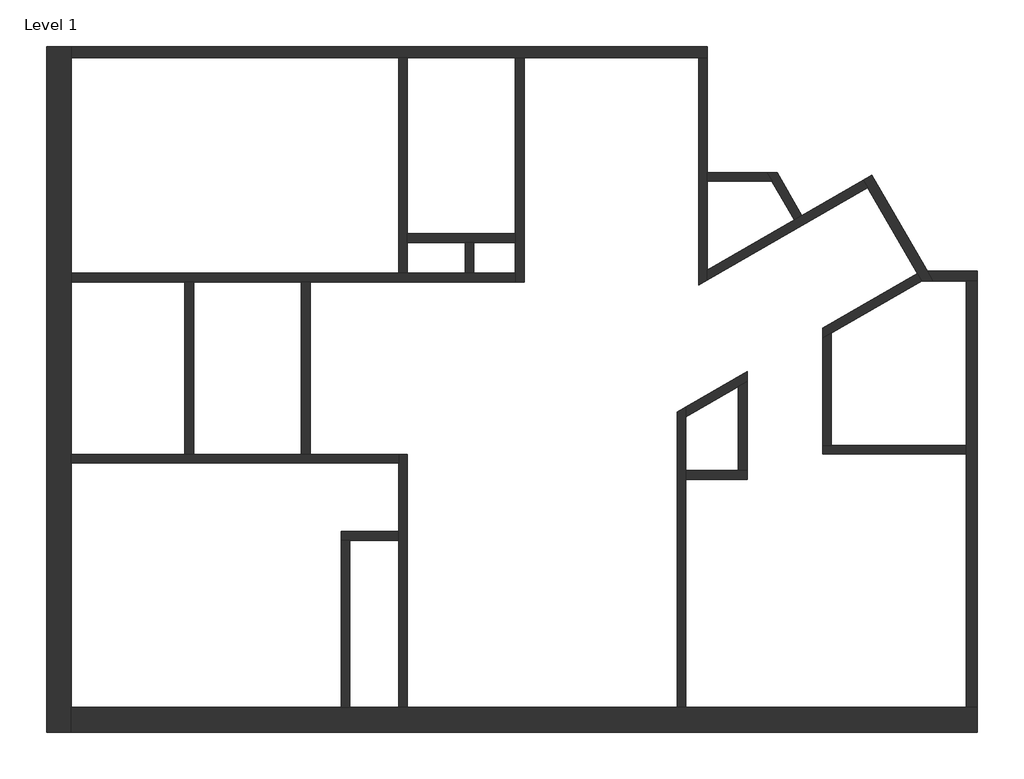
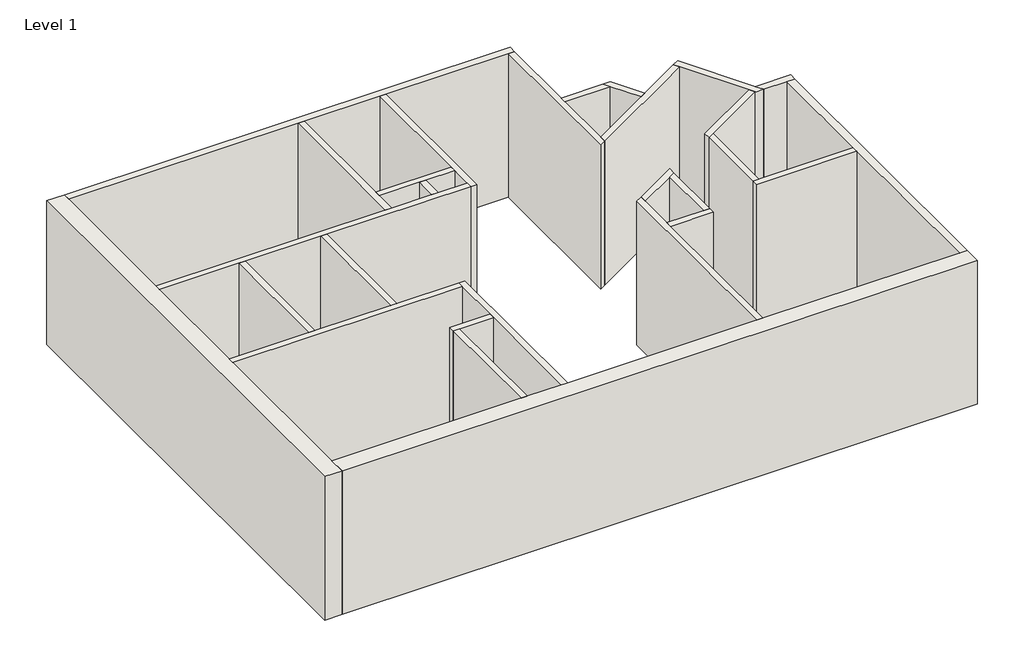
# One storey: 28 walls.
"""IFC4 building model written with IfcOpenShell, lengths in millimetres."""

import ifcopenshell
import ifcopenshell.guid

model = None  # the IFC model being written
_history = None  # IfcOwnerHistory: only IFC2X3 demands one
_inside = {}  # id of a spatial element -> (the spatial element, [elements in it])
_under = {}  # id of a project, library or spatial element -> (it, [spatial elements below it])
_declared = {}  # id of a project -> (the project, [libraries it declares])
_typed = {}  # id of a type object -> (the type object, [elements of that type])
_made_of = {}  # id of a material, layer set ... -> (it, [elements and type objects made of it])


def new_model(schema):
    """Start an empty IFC model of exactly this schema.

    Asked for "IFC4X3", IfcOpenShell would pick the latest addendum, in which some entities
    have other attributes; the version numbers below select the first issue.
    IFC2X3 requires an IfcOwnerHistory on every rooted entity: one is made here for all.
    """
    global model, _history
    if schema == "IFC4X3":
        model = ifcopenshell.file(schema_version=(4, 3, 0, 0))
    else:
        model = ifcopenshell.file(schema=schema)
    _inside.clear()
    _under.clear()
    _declared.clear()
    _typed.clear()
    _made_of.clear()
    _history = None
    if model.schema == "IFC2X3":
        org = make("IfcOrganization", Name="unknown")
        user = make(
            "IfcPersonAndOrganization",
            ThePerson=make("IfcPerson", FamilyName="unknown"),
            TheOrganization=org,
        )
        app = make(
            "IfcApplication",
            ApplicationDeveloper=org,
            Version="unknown",
            ApplicationFullName="unknown",
            ApplicationIdentifier="unknown",
        )
        _history = make(
            "IfcOwnerHistory",
            OwningUser=user,
            OwningApplication=app,
            ChangeAction="ADDED",
            CreationDate=0,
        )
    return model


def make(cls, **values):
    """One entity of the class cls with the attributes given. An attribute that is None is left unset."""
    return model.create_entity(
        cls, **{name: value for name, value in values.items() if value is not None}
    )


def rooted(cls, **values):
    """An entity with a GlobalId (a new one), such as an element, a storey or a relation."""
    return make(cls, GlobalId=ifcopenshell.guid.new(), OwnerHistory=_history, **values)


def si_unit(unit_type, name, prefix=None):
    """IfcSIUnit, for example si_unit("LENGTHUNIT", "METRE", prefix="MILLI")."""
    return make("IfcSIUnit", UnitType=unit_type, Prefix=prefix, Name=name)


def assignment(units):
    """IfcUnitAssignment: the units of a project."""
    return None if units is None else make("IfcUnitAssignment", Units=units)


def point(xyz):
    """IfcCartesianPoint."""
    return None if xyz is None else make("IfcCartesianPoint", Coordinates=xyz)


def direction(xyz):
    """IfcDirection."""
    return None if xyz is None else make("IfcDirection", DirectionRatios=xyz)


def frame(location, z_axis=None, x_axis=None):
    """IfcAxis2Placement3D, a coordinate frame: its origin and axes. An axis left out is left unset."""
    return make(
        "IfcAxis2Placement3D",
        Location=point(location),
        Axis=direction(z_axis),
        RefDirection=direction(x_axis),
    )


def origin():
    """The frame at (0, 0, 0) with its axes left unset."""
    return frame((0.0, 0.0, 0.0))


def origin_with_axes():
    """The frame at (0, 0, 0) with the z axis (0, 0, 1) and the x axis (1, 0, 0) written out."""
    return frame((0.0, 0.0, 0.0), z_axis=(0.0, 0.0, 1.0), x_axis=(1.0, 0.0, 0.0))


def place(relative_to, where):
    """IfcLocalPlacement: puts the frame where relative to a parent placement (None: the world)."""
    return make(
        "IfcLocalPlacement", PlacementRelTo=relative_to, RelativePlacement=where
    )


def context(
    kind, dimensions, precision=None, world=None, true_north=None, identifier=None
):
    """IfcGeometricRepresentationContext, for example the 3D "Model" context."""
    return make(
        "IfcGeometricRepresentationContext",
        ContextIdentifier=identifier,
        ContextType=kind,
        CoordinateSpaceDimension=dimensions,
        Precision=precision,
        WorldCoordinateSystem=world,
        TrueNorth=true_north,
    )


def project(units=None, contexts=None):
    """IfcProject with its units and contexts."""
    return rooted(
        "IfcProject",
        Name="project",
        RepresentationContexts=contexts,
        UnitsInContext=assignment(units),
    )


def spatial(cls, under=None, at=None, **own):
    """A site, building, storey or space (cls), placed at a placement, below another one or the project."""
    s = rooted(cls, ObjectPlacement=at, **own)
    if under is not None:
        _under.setdefault(under.id(), (under, []))[1].append(s)
    return s


def polyline(points):
    """IfcPolyline through the points."""
    return make("IfcPolyline", Points=[point(p) for p in points])


def outline(outer, holes=None, kind="AREA"):
    """IfcArbitraryClosedProfileDef: a profile drawn as a closed curve; with holes, ...WithVoids."""
    if holes is None:
        return make("IfcArbitraryClosedProfileDef", ProfileType=kind, OuterCurve=outer)
    return make(
        "IfcArbitraryProfileDefWithVoids",
        ProfileType=kind,
        OuterCurve=outer,
        InnerCurves=holes,
    )


def extrude(swept, where, along, depth):
    """IfcExtrudedAreaSolid: the profile swept, set in the frame where, extruded along a direction by depth."""
    return make(
        "IfcExtrudedAreaSolid",
        SweptArea=swept,
        Position=where,
        ExtrudedDirection=direction(along),
        Depth=depth,
    )


def faces_of(points, faces, orient=None, outer=None):
    """IfcFace entities. A face is a list of loops; a loop is a list of indices into points, from 0.

    orient and outer hold one flag for each loop. By default every Orientation is true, the
    first loop of a face is its IfcFaceOuterBound and the others are IfcFaceBound.
    """
    made = []
    for i, loops in enumerate(faces):
        bounds = []
        for j, loop in enumerate(loops):
            is_outer = j == 0 if outer is None else outer[i][j]
            bounds.append(
                make(
                    "IfcFaceOuterBound" if is_outer else "IfcFaceBound",
                    Bound=make("IfcPolyLoop", Polygon=[points[k] for k in loop]),
                    Orientation=True if orient is None else orient[i][j],
                )
            )
        made.append(make("IfcFace", Bounds=bounds))
    return made


def faceted_brep(points, faces, orient=None, outer=None, voids=None):
    """IfcFacetedBrep: a solid bounded by flat faces; with voids (closed shells), ...WithVoids."""
    shared = [point(p) for p in points]
    hull = make("IfcClosedShell", CfsFaces=faces_of(shared, faces, orient, outer))
    if voids is None:
        return make("IfcFacetedBrep", Outer=hull)
    return make(
        "IfcFacetedBrepWithVoids",
        Outer=hull,
        Voids=[
            make(cls, CfsFaces=faces_of(shared, fs, o, b)) for cls, fs, o, b in voids
        ],
    )


def shape(context_of_items, identifier, shape_type, items):
    """IfcShapeRepresentation: the items that make up one representation, for example the "Body"."""
    return make(
        "IfcShapeRepresentation",
        ContextOfItems=context_of_items,
        RepresentationIdentifier=identifier,
        RepresentationType=shape_type,
        Items=items,
    )


def made_of(thing, what):
    """Note that an element or type object is made of a material, layer set ...; save() writes the relation."""
    if what is not None:
        _made_of.setdefault(what.id(), (what, []))[1].append(thing)
    return thing


def element(
    cls,
    number,
    at=None,
    inside=None,
    cuts=None,
    type_object=None,
    material=None,
    context=None,
    identifier="Body",
    shape_type=None,
    held_by="IfcProductDefinitionShape",
    body=None,
    shapes=None,
    **own,
):
    """One element of the class cls, such as IfcWall. Its Tag is "e" and its number.

    at: its placement. inside: the storey or other place that contains it. cuts: it is an
    opening in that element (IfcRelVoidsElement). A single representation is given by context,
    identifier, shape_type and body (its items); several are given by shapes. held_by: the class
    of the entity that holds the representations. save() writes the other relations.
    """
    e = rooted(cls, Tag="e%d" % number, ObjectPlacement=at, **own)
    if body is not None:
        shapes = [shape(context, identifier, shape_type, body)]
    if shapes is not None:
        e.Representation = make(held_by, Representations=shapes)
    if inside is not None:
        _inside.setdefault(inside.id(), (inside, []))[1].append(e)
    if cuts is not None:
        rooted(
            "IfcRelVoidsElement", RelatingBuildingElement=cuts, RelatedOpeningElement=e
        )
    if type_object is not None:
        _typed.setdefault(type_object.id(), (type_object, []))[1].append(e)
    return made_of(e, material)


def aggregate(whole, parts):
    """IfcRelAggregates: a whole, such as a stair, and the parts it consists of."""
    return rooted("IfcRelAggregates", RelatingObject=whole, RelatedObjects=parts)


def save(model, path):
    """Write the relations noted so far, then the file.

    IfcRelAggregates (storeys below a building ...), IfcRelContainedInSpatialStructure (elements
    in a storey), IfcRelDefinesByType, IfcRelAssociatesMaterial and IfcRelDeclares: one each for
    every whole, place, type object, material and project.
    """
    for whole, parts in _under.values():
        aggregate(whole, parts)
    for where, things in _inside.values():
        rooted(
            "IfcRelContainedInSpatialStructure",
            RelatedElements=things,
            RelatingStructure=where,
        )
    for kind, things in _typed.values():
        rooted("IfcRelDefinesByType", RelatedObjects=things, RelatingType=kind)
    for what, things in _made_of.values():
        rooted("IfcRelAssociatesMaterial", RelatedObjects=things, RelatingMaterial=what)
    for by, libraries in _declared.values():
        rooted("IfcRelDeclares", RelatingContext=by, RelatedDefinitions=libraries)
    model.write(path)


model = new_model("IFC4")

# Units and contexts
model_context = context("Model", 3, world=origin())
ifc_project = project(units=[si_unit("LENGTHUNIT", "METRE", prefix="MILLI")], contexts=[model_context])

# Site, building, storey
site = spatial("IfcSite", under=ifc_project)
building = spatial("IfcBuilding", under=site)
storey = spatial("IfcBuildingStorey", under=building, Name="Level 1", Elevation=0.0)

# Walls
placement = place(None, origin())
element("IfcWall", 1, ObjectType="Exterior - Brick on Mtl. Stud", at=placement, inside=storey, context=model_context, shape_type="Brep", body=[
    faceted_brep([(-15017.7219396, -7941.9875651, 0.0), (-2219.2969396, -7941.9875651, 0.0), (-2219.2969396, -7941.9875651, 3060.0), (-15017.7219396, -7941.9875651, 3060.0), (-15017.7219396, -7589.5625651, 0.0), (-15017.7219396, -7589.5625651, 3060.0), (-11207.7219396, -7589.5625651, 3060.0), (-11083.8969396, -7589.5625651, 3060.0), (-10394.9219396, -7589.5625651, 3060.0), (-10271.0969396, -7589.5625651, 3060.0), (-6461.0969396, -7589.5625651, 3060.0), (-6337.2719396, -7589.5625651, 3060.0), (-2374.8719396, -7589.5625651, 3060.0), (-2219.2969396, -7589.5625651, 3060.0), (-2219.2969396, -7589.5625651, 0.0), (-2374.8719396, -7589.5625651, 0.0), (-6337.2719396, -7589.5625651, 0.0), (-6461.0969396, -7589.5625651, 0.0), (-10271.0969396, -7589.5625651, 0.0), (-10394.9219396, -7589.5625651, 0.0), (-11083.8969396, -7589.5625651, 0.0), (-11207.7219396, -7589.5625651, 0.0)], [[[0, 1, 2, 3]], [[4, 5, 6, 7, 8, 9, 10, 11, 12, 13, 14, 15, 16, 17, 18, 19, 20, 21]], [[1, 0, 4, 21, 20, 19, 18, 17, 16, 15, 14]], [[3, 2, 13, 12, 11, 10, 9, 8, 7, 6, 5]], [[2, 1, 14, 13]], [[0, 3, 5, 4]]]),
])
element("IfcWall", 2, ObjectType="Exterior - Brick on Mtl. Stud", at=placement, inside=storey, context=model_context, shape_type="Brep", body=[
    faceted_brep([(-15370.1469396, 1754.4624349, 0.0), (-15370.1469396, -7941.9875651, 0.0), (-15370.1469396, -7941.9875651, 3060.0), (-15370.1469396, 1754.4624349, 3060.0), (-15017.7219396, 1754.4624349, 0.0), (-15017.7219396, 1754.4624349, 3060.0), (-15017.7219396, 1598.8874349, 3060.0), (-15017.7219396, -1449.1125651, 3060.0), (-15017.7219396, -1572.9375651, 3060.0), (-15017.7219396, -4011.3375651, 3060.0), (-15017.7219396, -4135.1625651, 3060.0), (-15017.7219396, -7589.5625651, 3060.0), (-15017.7219396, -7941.9875651, 3060.0), (-15017.7219396, -7941.9875651, 0.0), (-15017.7219396, -7589.5625651, 0.0), (-15017.7219396, -4135.1625651, 0.0), (-15017.7219396, -4011.3375651, 0.0), (-15017.7219396, -1572.9375651, 0.0), (-15017.7219396, -1449.1125651, 0.0), (-15017.7219396, 1598.8874349, 0.0)], [[[0, 1, 2, 3]], [[4, 5, 6, 7, 8, 9, 10, 11, 12, 13, 14, 15, 16, 17, 18, 19]], [[1, 0, 4, 19, 18, 17, 16, 15, 14, 13]], [[3, 2, 12, 11, 10, 9, 8, 7, 6, 5]], [[2, 1, 13, 12]], [[0, 3, 5, 4]]]),
])
element("IfcWall", 3, ObjectType="Generic - 6\" Masonry", at=placement, inside=storey, context=model_context, shape_type="Brep", body=[
    faceted_brep([(-2842.422111, -1563.4125651, 0.0), (-2374.8719396, -1563.4125651, 0.0), (-2219.2969396, -1563.4125651, 0.0), (-2219.2969396, -1563.4125651, 3060.0), (-2374.8719396, -1563.4125651, 3060.0), (-2842.422111, -1563.4125651, 3060.0), (-2924.9110307, -1420.5375651, 0.0), (-2924.9110307, -1420.5375651, 3060.0), (-2219.2969396, -1420.5375651, 3060.0), (-2219.2969396, -1420.5375651, 0.0)], [[[0, 1, 2, 3, 4, 5]], [[6, 7, 8, 9]], [[2, 1, 0, 6, 9]], [[5, 4, 3, 8, 7]], [[3, 2, 9, 8]], [[0, 5, 7, 6]]]),
])
element("IfcWall", 4, ObjectType="Generic - 6\" Masonry", at=placement, inside=storey, context=model_context, shape_type="Brep", body=[
    faceted_brep([(-3833.0493621, -133.3458348, 0.0), (-3771.1368621, -240.5814305, 0.0), (-3071.0493621, -1453.1685502, 0.0), (-3009.1368621, -1560.4041458, 0.0), (-3007.3999504, -1563.4125651, 0.0), (-3007.3999504, -1563.4125651, 3060.0), (-3009.1368621, -1560.4041458, 3060.0), (-3071.0493621, -1453.1685502, 3060.0), (-3771.1368621, -240.5814305, 3060.0), (-3833.0493621, -133.3458348, 3060.0), (-3709.3159826, -61.9083348, 0.0), (-3709.3159826, -61.9083348, 3060.0), (-2924.9110307, -1420.5375651, 3060.0), (-2842.422111, -1563.4125651, 3060.0), (-2842.422111, -1563.4125651, 0.0), (-2924.9110307, -1420.5375651, 0.0)], [[[0, 1, 2, 3, 4, 5, 6, 7, 8, 9]], [[10, 11, 12, 13, 14, 15]], [[4, 3, 2, 1, 0, 10, 15, 14]], [[9, 8, 7, 6, 5, 13, 12, 11]], [[5, 4, 14, 13]], [[0, 9, 11, 10]]]),
])
element("IfcWall", 5, ObjectType="Interior - 4 7/8\" Partition (1-hr)", at=placement, inside=storey, context=model_context, shape_type="Brep", body=[
    faceted_brep([(-6337.2719396, -7589.5625651, 0.0), (-6337.2719396, -4363.7625651, 0.0), (-6337.2719396, -4239.9375651, 0.0), (-6337.2719396, -3481.9038287, 0.0), (-6337.2719396, -3338.9230345, 0.0), (-6337.2719396, -3338.9230345, 3060.0), (-6337.2719396, -3481.9038287, 3060.0), (-6337.2719396, -4239.9375651, 3060.0), (-6337.2719396, -4363.7625651, 3060.0), (-6337.2719396, -7589.5625651, 3060.0), (-6461.0969396, -7589.5625651, 0.0), (-6461.0969396, -7589.5625651, 3060.0), (-6461.0969396, -3410.4134316, 3060.0), (-6461.0969396, -3410.4134316, 0.0)], [[[0, 1, 2, 3, 4, 5, 6, 7, 8, 9]], [[10, 11, 12, 13]], [[4, 3, 2, 1, 0, 10, 13]], [[9, 8, 7, 6, 5, 12, 11]], [[5, 4, 13, 12]], [[0, 9, 11, 10]]]),
])
element("IfcWall", 6, ObjectType="Interior - 4 7/8\" Partition (1-hr)", at=placement, inside=storey, context=model_context, shape_type="Brep", body=[
    faceted_brep([(-10271.0969396, -7589.5625651, 0.0), (-10271.0969396, -4011.3375651, 0.0), (-10271.0969396, -4011.3375651, 3060.0), (-10271.0969396, -7589.5625651, 3060.0), (-10394.9219396, -7589.5625651, 0.0), (-10394.9219396, -7589.5625651, 3060.0), (-10394.9219396, -5224.1875651, 3060.0), (-10394.9219396, -5100.3625651, 3060.0), (-10394.9219396, -4135.1625651, 3060.0), (-10394.9219396, -4011.3375651, 3060.0), (-10394.9219396, -4011.3375651, 0.0), (-10394.9219396, -4135.1625651, 0.0), (-10394.9219396, -5100.3625651, 0.0), (-10394.9219396, -5224.1875651, 0.0)], [[[0, 1, 2, 3]], [[4, 5, 6, 7, 8, 9, 10, 11, 12, 13]], [[1, 0, 4, 13, 12, 11, 10]], [[3, 2, 9, 8, 7, 6, 5]], [[2, 1, 10, 9]], [[0, 3, 5, 4]]]),
])
element("IfcWall", 7, ObjectType="Interior - 4 7/8\" Partition (1-hr)", at=placement, inside=storey, context=model_context, shape_type="Brep", body=[
    faceted_brep([(-10394.9219396, -4011.3375651, 0.0), (-11645.8719396, -4011.3375651, 0.0), (-11769.6969396, -4011.3375651, 0.0), (-13293.6969396, -4011.3375651, 0.0), (-13417.5219396, -4011.3375651, 0.0), (-15017.7219396, -4011.3375651, 0.0), (-15017.7219396, -4011.3375651, 3060.0), (-13417.5219396, -4011.3375651, 3060.0), (-13293.6969396, -4011.3375651, 3060.0), (-11769.6969396, -4011.3375651, 3060.0), (-11645.8719396, -4011.3375651, 3060.0), (-10394.9219396, -4011.3375651, 3060.0), (-10394.9219396, -4135.1625651, 0.0), (-10394.9219396, -4135.1625651, 3060.0), (-15017.7219396, -4135.1625651, 3060.0), (-15017.7219396, -4135.1625651, 0.0)], [[[0, 1, 2, 3, 4, 5, 6, 7, 8, 9, 10, 11]], [[12, 13, 14, 15]], [[5, 4, 3, 2, 1, 0, 12, 15]], [[11, 10, 9, 8, 7, 6, 14, 13]], [[0, 11, 13, 12]], [[6, 5, 15, 14]]]),
])
element("IfcWall", 8, ObjectType="Interior - 4 7/8\" Partition (1-hr)", at=placement, inside=storey, context=model_context, shape_type="SweptSolid", body=[
    extrude(outline(polyline([(-11645.8719396, -1572.9375651), (-11645.8719396, -4011.3375651), (-11769.6969396, -4011.3375651), (-11769.6969396, -1572.9375651), (-11645.8719396, -1572.9375651)])), origin_with_axes(), (0.0, 0.0, 1.0), 3060.0),
])
element("IfcWall", 9, ObjectType="Interior - 4 7/8\" Partition (1-hr)", at=placement, inside=storey, context=model_context, shape_type="Brep", body=[
    faceted_brep([(-10271.0969396, -1449.1125651, 0.0), (-10271.0969396, -1014.1375651, 0.0), (-10271.0969396, -890.3125651, 0.0), (-10271.0969396, 1598.8874349, 0.0), (-10271.0969396, 1598.8874349, 3060.0), (-10271.0969396, -890.3125651, 3060.0), (-10271.0969396, -1014.1375651, 3060.0), (-10271.0969396, -1449.1125651, 3060.0), (-10394.9219396, -1449.1125651, 0.0), (-10394.9219396, -1449.1125651, 3060.0), (-10394.9219396, 1598.8874349, 3060.0), (-10394.9219396, 1598.8874349, 0.0)], [[[0, 1, 2, 3, 4, 5, 6, 7]], [[8, 9, 10, 11]], [[3, 2, 1, 0, 8, 11]], [[7, 6, 5, 4, 10, 9]], [[0, 7, 9, 8]], [[4, 3, 11, 10]]]),
])
element("IfcWall", 10, ObjectType="Interior - 4 7/8\" Partition (1-hr)", at=placement, inside=storey, context=model_context, shape_type="Brep", body=[
    faceted_brep([(-10394.9219396, -5100.3625651, 0.0), (-11207.7219396, -5100.3625651, 0.0), (-11207.7219396, -5100.3625651, 3060.0), (-10394.9219396, -5100.3625651, 3060.0), (-10394.9219396, -5224.1875651, 0.0), (-10394.9219396, -5224.1875651, 3060.0), (-11083.8969396, -5224.1875651, 3060.0), (-11207.7219396, -5224.1875651, 3060.0), (-11207.7219396, -5224.1875651, 0.0), (-11083.8969396, -5224.1875651, 0.0)], [[[0, 1, 2, 3]], [[4, 5, 6, 7, 8, 9]], [[1, 0, 4, 9, 8]], [[3, 2, 7, 6, 5]], [[2, 1, 8, 7]], [[0, 3, 5, 4]]]),
])
element("IfcWall", 11, ObjectType="Interior - 4 7/8\" Partition (1-hr)", at=placement, inside=storey, context=model_context, shape_type="SweptSolid", body=[
    extrude(outline(polyline([(-11207.7219396, -7589.5625651), (-11207.7219396, -5224.1875651), (-11083.8969396, -5224.1875651), (-11083.8969396, -7589.5625651), (-11207.7219396, -7589.5625651)])), origin_with_axes(), (0.0, 0.0, 1.0), 3060.0),
])
element("IfcWall", 12, ObjectType="Interior - 4 7/8\" Partition (1-hr)", at=placement, inside=storey, context=model_context, shape_type="SweptSolid", body=[
    extrude(outline(polyline([(-13293.6969396, -1572.9375651), (-13293.6969396, -4011.3375651), (-13417.5219396, -4011.3375651), (-13417.5219396, -1572.9375651), (-13293.6969396, -1572.9375651)])), origin_with_axes(), (0.0, 0.0, 1.0), 3060.0),
])
element("IfcWall", 13, ObjectType="Interior - 4 7/8\" Partition (1-hr)", at=placement, inside=storey, context=model_context, shape_type="Brep", body=[
    faceted_brep([(-15017.7219396, -1572.9375651, 0.0), (-13417.5219396, -1572.9375651, 0.0), (-13293.6969396, -1572.9375651, 0.0), (-11769.6969396, -1572.9375651, 0.0), (-11645.8719396, -1572.9375651, 0.0), (-8747.0969396, -1572.9375651, 0.0), (-8747.0969396, -1572.9375651, 3060.0), (-11645.8719396, -1572.9375651, 3060.0), (-11769.6969396, -1572.9375651, 3060.0), (-13293.6969396, -1572.9375651, 3060.0), (-13417.5219396, -1572.9375651, 3060.0), (-15017.7219396, -1572.9375651, 3060.0), (-15017.7219396, -1449.1125651, 0.0), (-15017.7219396, -1449.1125651, 3060.0), (-10394.9219396, -1449.1125651, 3060.0), (-10271.0969396, -1449.1125651, 3060.0), (-9458.2969396, -1449.1125651, 3060.0), (-9334.4719396, -1449.1125651, 3060.0), (-8747.0969396, -1449.1125651, 3060.0), (-8747.0969396, -1449.1125651, 0.0), (-9334.4719396, -1449.1125651, 0.0), (-9458.2969396, -1449.1125651, 0.0), (-10271.0969396, -1449.1125651, 0.0), (-10394.9219396, -1449.1125651, 0.0)], [[[0, 1, 2, 3, 4, 5, 6, 7, 8, 9, 10, 11]], [[12, 13, 14, 15, 16, 17, 18, 19, 20, 21, 22, 23]], [[5, 4, 3, 2, 1, 0, 12, 23, 22, 21, 20, 19]], [[11, 10, 9, 8, 7, 6, 18, 17, 16, 15, 14, 13]], [[6, 5, 19, 18]], [[0, 11, 13, 12]]]),
])
element("IfcWall", 14, ObjectType="Interior - 4 7/8\" Partition (1-hr)", at=placement, inside=storey, context=model_context, shape_type="Brep", body=[
    faceted_brep([(-8623.2719396, -1572.9375651, 0.0), (-8623.2719396, 1598.8874349, 0.0), (-8623.2719396, 1598.8874349, 3060.0), (-8623.2719396, -1572.9375651, 3060.0), (-8747.0969396, -1572.9375651, 0.0), (-8747.0969396, -1572.9375651, 3060.0), (-8747.0969396, -1449.1125651, 3060.0), (-8747.0969396, -1014.1375651, 3060.0), (-8747.0969396, -890.3125651, 3060.0), (-8747.0969396, 1598.8874349, 3060.0), (-8747.0969396, 1598.8874349, 0.0), (-8747.0969396, -890.3125651, 0.0), (-8747.0969396, -1014.1375651, 0.0), (-8747.0969396, -1449.1125651, 0.0)], [[[0, 1, 2, 3]], [[4, 5, 6, 7, 8, 9, 10, 11, 12, 13]], [[1, 0, 4, 13, 12, 11, 10]], [[3, 2, 9, 8, 7, 6, 5]], [[0, 3, 5, 4]], [[2, 1, 10, 9]]]),
])
element("IfcWall", 15, ObjectType="Interior - 4 7/8\" Partition (1-hr)", at=placement, inside=storey, context=model_context, shape_type="Brep", body=[
    faceted_brep([(-6337.2719396, -4363.7625651, 0.0), (-5473.6719396, -4363.7625651, 0.0), (-5473.6719396, -4363.7625651, 3060.0), (-6337.2719396, -4363.7625651, 3060.0), (-6337.2719396, -4239.9375651, 0.0), (-6337.2719396, -4239.9375651, 3060.0), (-5597.4969396, -4239.9375651, 3060.0), (-5473.6719396, -4239.9375651, 3060.0), (-5473.6719396, -4239.9375651, 0.0), (-5597.4969396, -4239.9375651, 0.0)], [[[0, 1, 2, 3]], [[4, 5, 6, 7, 8, 9]], [[1, 0, 4, 9, 8]], [[3, 2, 7, 6, 5]], [[2, 1, 8, 7]], [[0, 3, 5, 4]]]),
])
element("IfcWall", 16, ObjectType="Interior - 4 7/8\" Partition (1-hr)", at=placement, inside=storey, context=model_context, shape_type="SweptSolid", body=[
    extrude(outline(polyline([(-5473.6719396, -2983.3041362), (-5473.6719396, -4239.9375651), (-5597.4969396, -4239.9375651), (-5597.4969396, -3054.7945333), (-5473.6719396, -2983.3041362)])), origin_with_axes(), (0.0, 0.0, 1.0), 3060.0),
])
element("IfcWall", 17, ObjectType="Interior - 4 7/8\" Partition (1-hr)", at=placement, inside=storey, context=model_context, shape_type="Brep", body=[
    faceted_brep([(-3071.0493621, -1453.1685502, 0.0), (-4406.8719396, -2224.4060749, 0.0), (-4406.8719396, -2224.4060749, 3060.0), (-3071.0493621, -1453.1685502, 3060.0), (-3009.1368621, -1560.4041458, 0.0), (-3009.1368621, -1560.4041458, 3060.0), (-4283.0469396, -2295.896472, 3060.0), (-4406.8719396, -2367.386869, 3060.0), (-4406.8719396, -2367.386869, 0.0), (-4283.0469396, -2295.896472, 0.0)], [[[0, 1, 2, 3]], [[4, 5, 6, 7, 8, 9]], [[1, 0, 4, 9, 8]], [[3, 2, 7, 6, 5]], [[2, 1, 8, 7]], [[0, 3, 5, 4]]]),
])
element("IfcWall", 18, ObjectType="Interior - 4 7/8\" Partition (1-hr)", at=placement, inside=storey, context=model_context, shape_type="Brep", body=[
    faceted_brep([(-6035.6469396, -1547.9969332, 0.0), (-6035.6469396, -1405.0161391, 0.0), (-6035.6469396, -150.5375651, 0.0), (-6035.6469396, -26.7125651, 0.0), (-6035.6469396, 1598.8874349, 0.0), (-6035.6469396, 1598.8874349, 3060.0), (-6035.6469396, -26.7125651, 3060.0), (-6035.6469396, -150.5375651, 3060.0), (-6035.6469396, -1405.0161391, 3060.0), (-6035.6469396, -1547.9969332, 3060.0), (-6159.4719396, -1619.4873303, 0.0), (-6159.4719396, -1619.4873303, 3060.0), (-6159.4719396, 1598.8874349, 3060.0), (-6159.4719396, 1598.8874349, 0.0)], [[[0, 1, 2, 3, 4, 5, 6, 7, 8, 9]], [[10, 11, 12, 13]], [[4, 3, 2, 1, 0, 10, 13]], [[9, 8, 7, 6, 5, 12, 11]], [[0, 9, 11, 10]], [[5, 4, 13, 12]]]),
])
element("IfcWall", 19, ObjectType="Interior - 4 7/8\" Partition (1-hr)", at=placement, inside=storey, context=model_context, shape_type="Brep", body=[
    faceted_brep([(-4406.8719396, -4008.1625651, 0.0), (-2374.8719396, -4008.1625651, 0.0), (-2374.8719396, -4008.1625651, 3060.0), (-4406.8719396, -4008.1625651, 3060.0), (-4406.8719396, -3884.3375651, 0.0), (-4406.8719396, -3884.3375651, 3060.0), (-4283.0469396, -3884.3375651, 3060.0), (-2374.8719396, -3884.3375651, 3060.0), (-2374.8719396, -3884.3375651, 0.0), (-4283.0469396, -3884.3375651, 0.0)], [[[0, 1, 2, 3]], [[4, 5, 6, 7, 8, 9]], [[1, 0, 4, 9, 8]], [[3, 2, 7, 6, 5]], [[0, 3, 5, 4]], [[2, 1, 8, 7]]]),
])
element("IfcWall", 20, ObjectType="Interior - 4 7/8\" Partition (1-hr)", at=placement, inside=storey, context=model_context, shape_type="SweptSolid", body=[
    extrude(outline(polyline([(-4283.0469396, -2295.896472), (-4283.0469396, -3884.3375651), (-4406.8719396, -3884.3375651), (-4406.8719396, -2367.386869), (-4283.0469396, -2295.896472)])), origin_with_axes(), (0.0, 0.0, 1.0), 3060.0),
])
element("IfcWall", 21, ObjectType="Interior - 4 7/8\" Partition (1-hr)", at=placement, inside=storey, context=model_context, shape_type="Brep", body=[
    faceted_brep([(-5473.6719396, -2840.323342, 0.0), (-6337.2719396, -3338.9230345, 0.0), (-6337.2719396, -3338.9230345, 3060.0), (-5473.6719396, -2840.323342, 3060.0), (-5473.6719396, -2983.3041362, 0.0), (-5473.6719396, -2983.3041362, 3060.0), (-5597.4969396, -3054.7945333, 3060.0), (-6337.2719396, -3481.9038287, 3060.0), (-6337.2719396, -3481.9038287, 0.0), (-5597.4969396, -3054.7945333, 0.0)], [[[0, 1, 2, 3]], [[4, 5, 6, 7, 8, 9]], [[1, 0, 4, 9, 8]], [[3, 2, 7, 6, 5]], [[0, 3, 5, 4]], [[2, 1, 8, 7]]]),
])
element("IfcWall", 22, ObjectType="Interior - 4 7/8\" Partition (1-hr)", at=placement, inside=storey, context=model_context, shape_type="Brep", body=[
    faceted_brep([(-6035.6469396, -1547.9969332, 0.0), (-3771.1368621, -240.5814305, 0.0), (-3771.1368621, -240.5814305, 3060.0), (-6035.6469396, -1547.9969332, 3060.0), (-6035.6469396, -1405.0161391, 0.0), (-6035.6469396, -1405.0161391, 3060.0), (-4806.4186147, -695.3208348, 3060.0), (-4699.1830191, -633.4083348, 3060.0), (-3833.0493621, -133.3458348, 3060.0), (-3833.0493621, -133.3458348, 0.0), (-4699.1830191, -633.4083348, 0.0), (-4806.4186147, -695.3208348, 0.0)], [[[0, 1, 2, 3]], [[4, 5, 6, 7, 8, 9, 10, 11]], [[1, 0, 4, 11, 10, 9]], [[3, 2, 8, 7, 6, 5]], [[0, 3, 5, 4]], [[2, 1, 9, 8]]]),
])
element("IfcWall", 23, ObjectType="Interior - 4 7/8\" Partition (1-hr)", at=placement, inside=storey, context=model_context, shape_type="Brep", body=[
    faceted_brep([(-4699.1830191, -633.4083348, 0.0), (-5049.458985, -26.7125651, 0.0), (-5049.458985, -26.7125651, 3060.0), (-4699.1830191, -633.4083348, 3060.0), (-4806.4186147, -695.3208348, 0.0), (-4806.4186147, -695.3208348, 3060.0), (-5120.9493821, -150.5375651, 3060.0), (-5192.4397792, -26.7125651, 3060.0), (-5192.4397792, -26.7125651, 0.0), (-5120.9493821, -150.5375651, 0.0)], [[[0, 1, 2, 3]], [[4, 5, 6, 7, 8, 9]], [[1, 0, 4, 9, 8]], [[3, 2, 7, 6, 5]], [[2, 1, 8, 7]], [[0, 3, 5, 4]]]),
])
element("IfcWall", 24, ObjectType="Interior - 4 7/8\" Partition (1-hr)", at=placement, inside=storey, context=model_context, shape_type="SweptSolid", body=[
    extrude(outline(polyline([(-6035.6469396, -26.7125651), (-5192.4397792, -26.7125651), (-5120.9493821, -150.5375651), (-6035.6469396, -150.5375651), (-6035.6469396, -26.7125651)])), origin_with_axes(), (0.0, 0.0, 1.0), 3060.0),
])
element("IfcWall", 25, ObjectType="Interior - 4 7/8\" Partition (1-hr)", at=placement, inside=storey, context=model_context, shape_type="Brep", body=[
    faceted_brep([(-8747.0969396, -890.3125651, 0.0), (-10271.0969396, -890.3125651, 0.0), (-10271.0969396, -890.3125651, 3060.0), (-8747.0969396, -890.3125651, 3060.0), (-8747.0969396, -1014.1375651, 0.0), (-8747.0969396, -1014.1375651, 3060.0), (-9334.4719396, -1014.1375651, 3060.0), (-9458.2969396, -1014.1375651, 3060.0), (-10271.0969396, -1014.1375651, 3060.0), (-10271.0969396, -1014.1375651, 0.0), (-9458.2969396, -1014.1375651, 0.0), (-9334.4719396, -1014.1375651, 0.0)], [[[0, 1, 2, 3]], [[4, 5, 6, 7, 8, 9, 10, 11]], [[1, 0, 4, 11, 10, 9]], [[3, 2, 8, 7, 6, 5]], [[0, 3, 5, 4]], [[2, 1, 9, 8]]]),
])
element("IfcWall", 26, ObjectType="Interior - 4 7/8\" Partition (1-hr)", at=placement, inside=storey, context=model_context, shape_type="SweptSolid", body=[
    extrude(outline(polyline([(-9458.2969396, -1449.1125651), (-9458.2969396, -1014.1375651), (-9334.4719396, -1014.1375651), (-9334.4719396, -1449.1125651), (-9458.2969396, -1449.1125651)])), origin_with_axes(), (0.0, 0.0, 1.0), 3060.0),
])
element("IfcWall", 27, ObjectType="Interior - 6 1/8\" Partition (2-hr)", at=placement, inside=storey, context=model_context, shape_type="Brep", body=[
    faceted_brep([(-2374.8719396, -1563.4125651, 0.0), (-2374.8719396, -3884.3375651, 0.0), (-2374.8719396, -4008.1625651, 0.0), (-2374.8719396, -7589.5625651, 0.0), (-2374.8719396, -7589.5625651, 3060.0), (-2374.8719396, -4008.1625651, 3060.0), (-2374.8719396, -3884.3375651, 3060.0), (-2374.8719396, -1563.4125651, 3060.0), (-2219.2969396, -1563.4125651, 0.0), (-2219.2969396, -1563.4125651, 3060.0), (-2219.2969396, -7589.5625651, 3060.0), (-2219.2969396, -7589.5625651, 0.0)], [[[0, 1, 2, 3, 4, 5, 6, 7]], [[8, 9, 10, 11]], [[3, 2, 1, 0, 8, 11]], [[7, 6, 5, 4, 10, 9]], [[0, 7, 9, 8]], [[4, 3, 11, 10]]]),
])
element("IfcWall", 28, ObjectType="Interior - 6 1/8\" Partition (2-hr)", at=placement, inside=storey, context=model_context, shape_type="Brep", body=[
    faceted_brep([(-6035.6469396, 1754.4624349, 0.0), (-15017.7219396, 1754.4624349, 0.0), (-15017.7219396, 1754.4624349, 3060.0), (-6035.6469396, 1754.4624349, 3060.0), (-6035.6469396, 1598.8874349, 0.0), (-6035.6469396, 1598.8874349, 3060.0), (-6159.4719396, 1598.8874349, 3060.0), (-8623.2719396, 1598.8874349, 3060.0), (-8747.0969396, 1598.8874349, 3060.0), (-10271.0969396, 1598.8874349, 3060.0), (-10394.9219396, 1598.8874349, 3060.0), (-15017.7219396, 1598.8874349, 3060.0), (-15017.7219396, 1598.8874349, 0.0), (-10394.9219396, 1598.8874349, 0.0), (-10271.0969396, 1598.8874349, 0.0), (-8747.0969396, 1598.8874349, 0.0), (-8623.2719396, 1598.8874349, 0.0), (-6159.4719396, 1598.8874349, 0.0)], [[[0, 1, 2, 3]], [[4, 5, 6, 7, 8, 9, 10, 11, 12, 13, 14, 15, 16, 17]], [[1, 0, 4, 17, 16, 15, 14, 13, 12]], [[3, 2, 11, 10, 9, 8, 7, 6, 5]], [[0, 3, 5, 4]], [[2, 1, 12, 11]]]),
])

save(model, "model.ifc")
